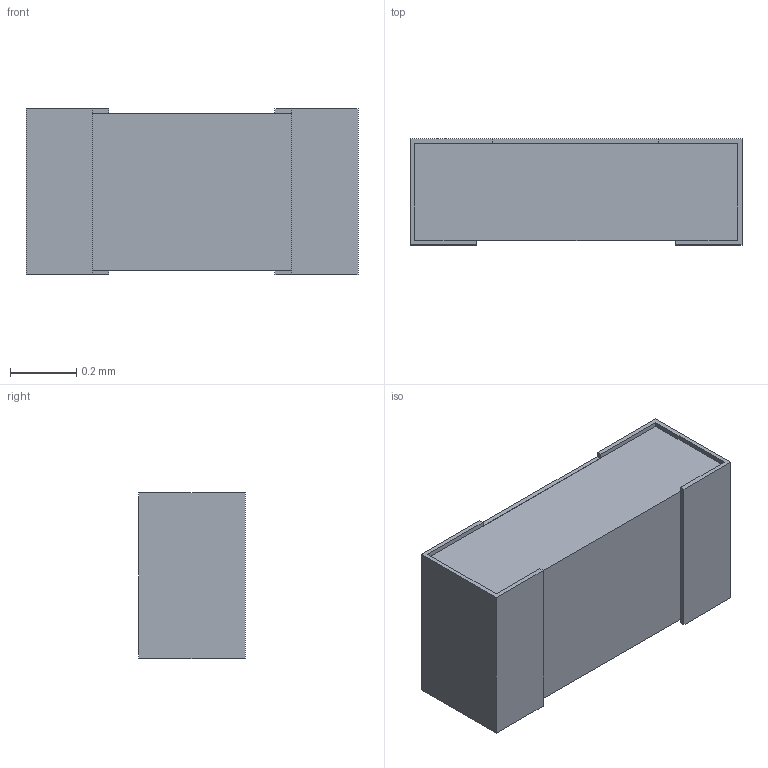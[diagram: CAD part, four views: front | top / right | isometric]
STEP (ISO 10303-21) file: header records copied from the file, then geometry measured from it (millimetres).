
FILE_DESCRIPTION(/* description */ (''),/* implementation_level */ '2;1');
FILE_NAME(/* name */ 'C:\Users\mulla\Documents\SEI Models\Inventor Files\CSR\CSR0402_stp.stp',/* time_stamp */ '2019-06-14T15:44:14-04:00',/* author */ ('mulla'),/* organization */ (''),/* preprocessor_version */ 'ST-DEVELOPER v16.1',/* originating_system */ 'Autodesk Inventor 2016',/* authorisation */ '');
FILE_SCHEMA (('AUTOMOTIVE_DESIGN { 1 0 10303 214 3 1 1 }'));
Length unit declared in the file: millimetre
Products named in the file (1): CSR0402
Bounding box: 1 x 0.32 x 0.5 mm (x, y, z)
Volume: 0.1 mm3; surface area: 3.8 mm2
Topology: 4 solids, 4 shells, 32 faces, 72 edges, 48 vertices
Faces by surface type: plane 32
Entity records: 950 total; most frequent: CARTESIAN_POINT 153, ORIENTED_EDGE 144, DIRECTION 138, LINE 72, VECTOR 72, EDGE_CURVE 72, VERTEX_POINT 48, STYLED_ITEM 36
